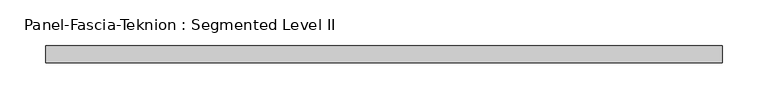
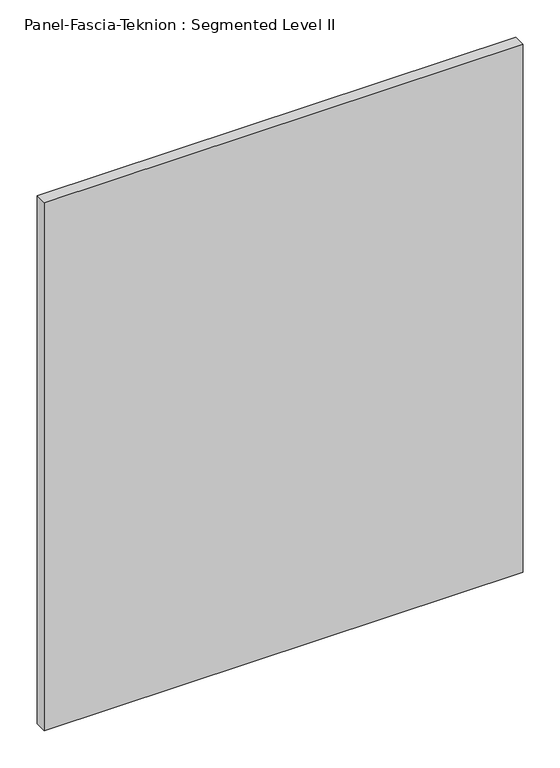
"""IFC4 building model written with IfcOpenShell, lengths in millimetres: proxy geometry, Panel-Fascia-Teknion : Segmented Level II."""

from ifc_helpers import new_model, si_unit, frame, origin, place, context, project, spatial, polyline, outline, extrude, source, transform, mapped, element, save


def panel_fascia_teknion_segmented_level_ii_fc398785(model_context):
    return source(origin(), model_context, "Body", "SweptSolid", [
        extrude(outline(polyline([(371.4253906, 9.525), (371.4253906, -9.525), (-371.4253906, -9.525), (-371.4253906, 9.525), (371.4253906, 9.525)])), frame((0.0, 0.0, 3.175), z_axis=(0.0, 0.0, 1.0), x_axis=(1.0, 0.0, 0.0)), (0.0, 0.0, 1.0), 865.632),
    ])


if __name__ == "__main__":
    model = new_model("IFC4")
    model_context = context("Model", 3, world=origin())
    ifc_project = project(units=[si_unit("LENGTHUNIT", "METRE", prefix="MILLI")], contexts=[model_context])
    site = spatial("IfcSite", under=ifc_project)
    building = spatial("IfcBuilding", under=site)
    placement = place(None, origin())
    panel_fascia_teknion_segmented_level_ii_shape = panel_fascia_teknion_segmented_level_ii_fc398785(model_context)
    element("IfcBuildingElementProxy", 1, Name="Panel-Fascia-Teknion : Segmented Level II", ObjectType="Panel-Fascia-Teknion : Segmented Level II", at=placement, inside=building, context=model_context, shape_type="MappedRepresentation", body=[
        mapped(panel_fascia_teknion_segmented_level_ii_shape, transform((0.0, 0.0, 0.0), x_axis=(1.0, 0.0, 0.0), y_axis=(0.0, 1.0, 0.0), z_axis=(0.0, 0.0, 1.0))),
    ])
    save(model, "model.ifc")
